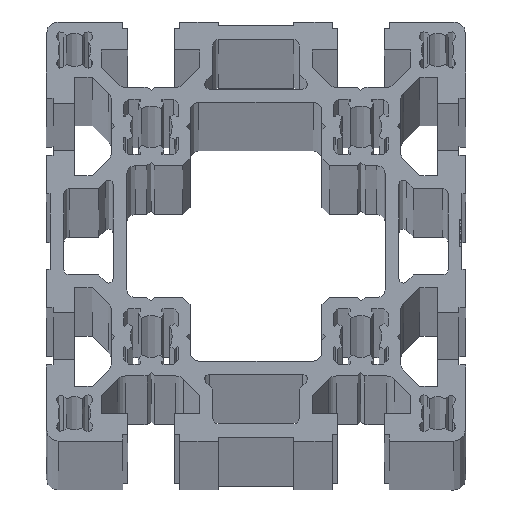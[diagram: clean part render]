
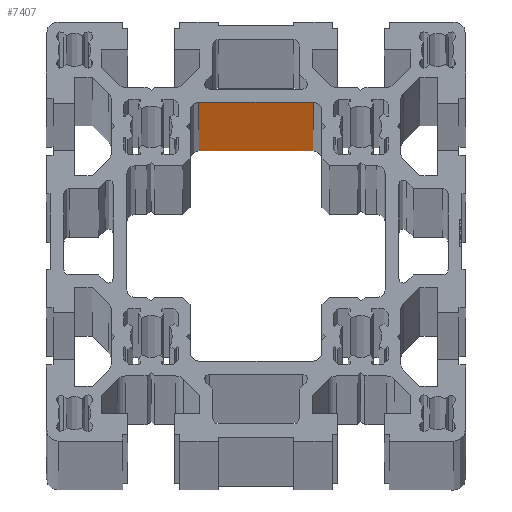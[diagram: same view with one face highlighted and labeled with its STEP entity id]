
A CAD part, top view. The second image highlights one B-rep face of the part: STEP entity #7407.
In plain terms, the highlighted planar face has unit normal (0, -1, 0).
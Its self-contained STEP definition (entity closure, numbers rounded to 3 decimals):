
#183 = EDGE_CURVE ( 'NONE', #8560, #12826, #5078, .T. ) ;
#241 = CARTESIAN_POINT ( 'NONE',  ( 57.285, 72.787, -6000. ) ) ;
#436 = CARTESIAN_POINT ( 'NONE',  ( 32.715, 72.787, 0. ) ) ;
#3029 = FACE_OUTER_BOUND ( 'NONE', #10709, .T. ) ;
#4680 = VERTEX_POINT ( 'NONE', #14473 ) ;
#5078 = LINE ( 'NONE', #21059, #9525 ) ;
#5094 = CARTESIAN_POINT ( 'NONE',  ( 45., 72.787, 0. ) ) ;
#5447 = AXIS2_PLACEMENT_3D ( 'NONE', #17848, #14559, #16377 ) ;
#5730 = LINE ( 'NONE', #15781, #18550 ) ;
#7082 = ORIENTED_EDGE ( 'NONE', *, *, #10090, .T. ) ;
#7266 = VERTEX_POINT ( 'NONE', #13266 ) ;
#7407 = ADVANCED_FACE ( 'NONE', ( #3029 ), #8054, .T. ) ;
#8054 = PLANE ( 'NONE',  #5447 ) ;
#8560 = VERTEX_POINT ( 'NONE', #13442 ) ;
#9525 = VECTOR ( 'NONE', #13425, 1000. ) ;
#10090 = EDGE_CURVE ( 'NONE', #7266, #12826, #18117, .T. ) ;
#10282 = DIRECTION ( 'NONE',  ( 0., 0., 1. ) ) ;
#10709 = EDGE_LOOP ( 'NONE', ( #7082, #20469, #21403, #20719 ) ) ;
#10790 = DIRECTION ( 'NONE',  ( -1., 0., 0. ) ) ;
#12304 = EDGE_CURVE ( 'NONE', #4680, #8560, #5730, .T. ) ;
#12826 = VERTEX_POINT ( 'NONE', #436 ) ;
#13266 = CARTESIAN_POINT ( 'NONE',  ( 57.285, 72.787, 0. ) ) ;
#13425 = DIRECTION ( 'NONE',  ( 0., 0., 1. ) ) ;
#13442 = CARTESIAN_POINT ( 'NONE',  ( 32.715, 72.787, -6000. ) ) ;
#13449 = VECTOR ( 'NONE', #16871, 1000. ) ;
#14473 = CARTESIAN_POINT ( 'NONE',  ( 57.285, 72.787, -6000. ) ) ;
#14559 = DIRECTION ( 'NONE',  ( 0., -1., 0. ) ) ;
#15781 = CARTESIAN_POINT ( 'NONE',  ( 45., 72.787, -6000. ) ) ;
#16377 = DIRECTION ( 'NONE',  ( 0., 0., 1. ) ) ;
#16489 = EDGE_CURVE ( 'NONE', #4680, #7266, #21013, .T. ) ;
#16871 = DIRECTION ( 'NONE',  ( -1., 0., 0. ) ) ;
#17087 = VECTOR ( 'NONE', #10282, 1000. ) ;
#17848 = CARTESIAN_POINT ( 'NONE',  ( 45., 72.787, -6000. ) ) ;
#18117 = LINE ( 'NONE', #5094, #13449 ) ;
#18550 = VECTOR ( 'NONE', #10790, 1000. ) ;
#20469 = ORIENTED_EDGE ( 'NONE', *, *, #183, .F. ) ;
#20719 = ORIENTED_EDGE ( 'NONE', *, *, #16489, .T. ) ;
#21013 = LINE ( 'NONE', #241, #17087 ) ;
#21059 = CARTESIAN_POINT ( 'NONE',  ( 32.715, 72.787, -6000. ) ) ;
#21403 = ORIENTED_EDGE ( 'NONE', *, *, #12304, .F. ) ;
